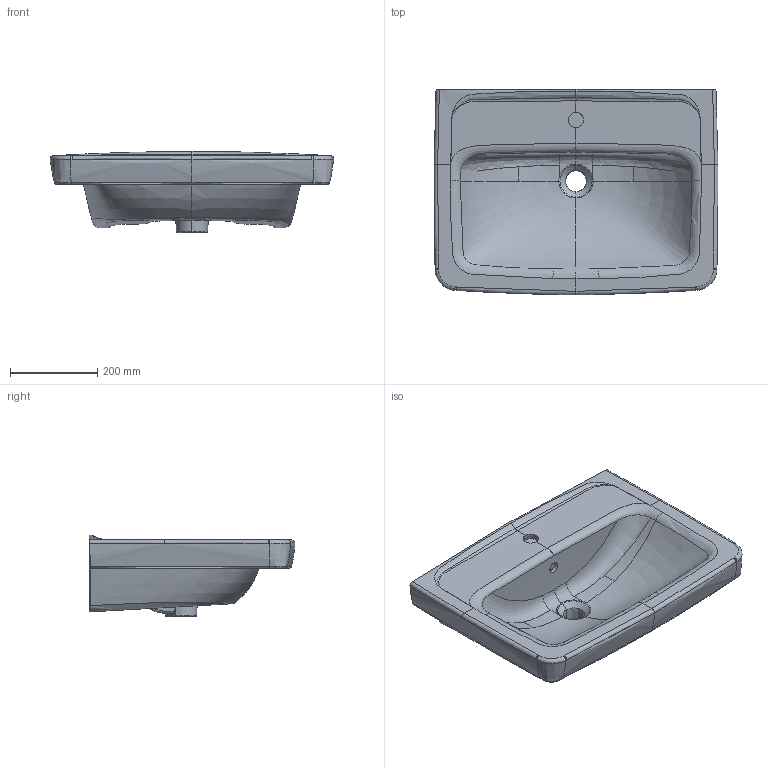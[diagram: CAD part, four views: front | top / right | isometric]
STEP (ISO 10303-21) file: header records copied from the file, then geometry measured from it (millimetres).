
FILE_DESCRIPTION(/* description */ (''),/* implementation_level */ '2;1');
FILE_NAME(/* name */ '4A9265.stp',/* time_stamp */ '2021-05-27T13:15:12+02:00',/* author */ (''),/* organization */ (''),/* preprocessor_version */ 'ST-DEVELOPER v16.7',/* originating_system */ 'SIEMENS PLM Software NX 1863',/* authorisation */ '');
FILE_SCHEMA (('AUTOMOTIVE_DESIGN { 1 0 10303 214 3 1 1 1 }'));
Products named in the file (1): koeb394416B3riq3
Bounding box: 649.13 x 470.38 x 185.74 mm (x, y, z)
Volume: 17862153.5 mm3; surface area: 940841.3 mm2
Topology: 1 solids, 1 shells, 313 faces, 768 edges, 435 vertices
Faces by surface type: bspline 259, cylinder 17, plane 15, sphere 10, extrusion 5, torus 4, cone 3
Full cylindrical faces by diameter (mm): 25 x1
Entity records: 40039 total; most frequent: CARTESIAN_POINT 34827, ORIENTED_EDGE 1484, EDGE_CURVE 742, B_SPLINE_CURVE_WITH_KNOTS 544, DIRECTION 459, VERTEX_POINT 433, EDGE_LOOP 317, ADVANCED_FACE 313
